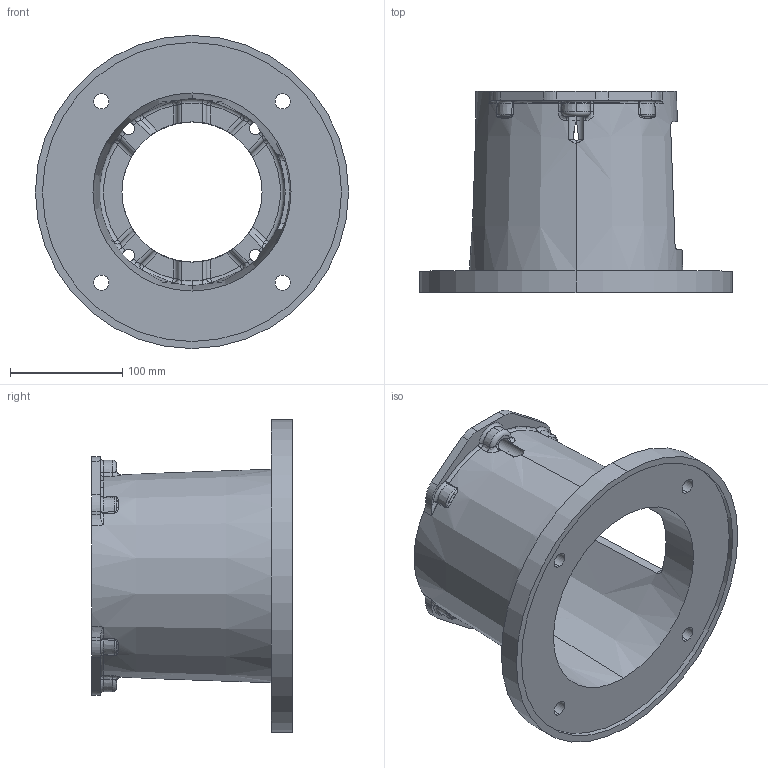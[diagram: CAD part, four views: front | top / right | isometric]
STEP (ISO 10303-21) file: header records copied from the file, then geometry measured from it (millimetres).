
FILE_DESCRIPTION (( 'STEP AP203' ), '1' );
FILE_NAME ('M28468125M.STEP', '2015-01-19T16:36:14', ( '' ), ( '' ), 'SwSTEP 2.0', 'SolidWorks 2014', '' );
FILE_SCHEMA (( 'CONFIG_CONTROL_DESIGN' ));
Length unit declared in the file: inch
Products named in the file (1): M28468125M
Bounding box: 279.4 x 179.32 x 279.4 mm (x, y, z)
Volume: 1299793.4 mm3; surface area: 301991.8 mm2
Topology: 1 solids, 1 shells, 322 faces, 872 edges, 520 vertices
Faces by surface type: cylinder 86, torus 76, bspline 64, plane 50, sphere 24, cone 22
Entity records: 14397 total; most frequent: CARTESIAN_POINT 6931, ORIENTED_EDGE 1696, DIRECTION 1438, EDGE_CURVE 848, AXIS2_PLACEMENT_3D 641, VERTEX_POINT 520, CIRCLE 382, EDGE_LOOP 342
